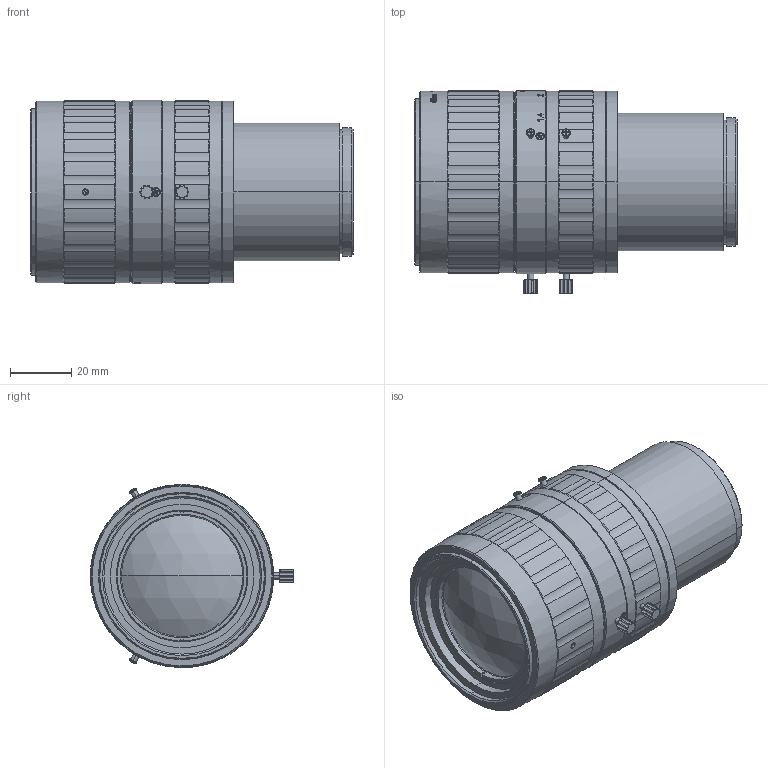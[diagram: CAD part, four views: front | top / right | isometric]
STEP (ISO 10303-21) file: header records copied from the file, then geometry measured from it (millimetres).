
FILE_DESCRIPTION (( 'STEP AP214' ), '1' );
FILE_NAME ('UN-GSWIR5014L.STEP', '2026-01-26T11:57:56', ( 'UNI-AB' ), ( '' ), 'SwSTEP 2.0', 'SolidWorks 2024', '' );
FILE_SCHEMA (( 'AUTOMOTIVE_DESIGN' ));
Length unit declared in the file: millimetre
Products named in the file (1): UN-GSWIR5014L
Bounding box: 105.5 x 66.51 x 60.01 mm (x, y, z)
Surface area: 35975.7 mm2 (no closed solid volume)
Topology: 0 solids, 67 shells, 627 faces, 2065 edges, 1488 vertices
Faces by surface type: cylinder 263, cone 159, plane 152, sphere 24, torus 18, bspline 11
Entity records: 28922 total; most frequent: CARTESIAN_POINT 11613, DIRECTION 3547, ORIENTED_EDGE 3361, EDGE_CURVE 2065, VERTEX_POINT 1488, AXIS2_PLACEMENT_3D 1452, CIRCLE 835, EDGE_LOOP 676
